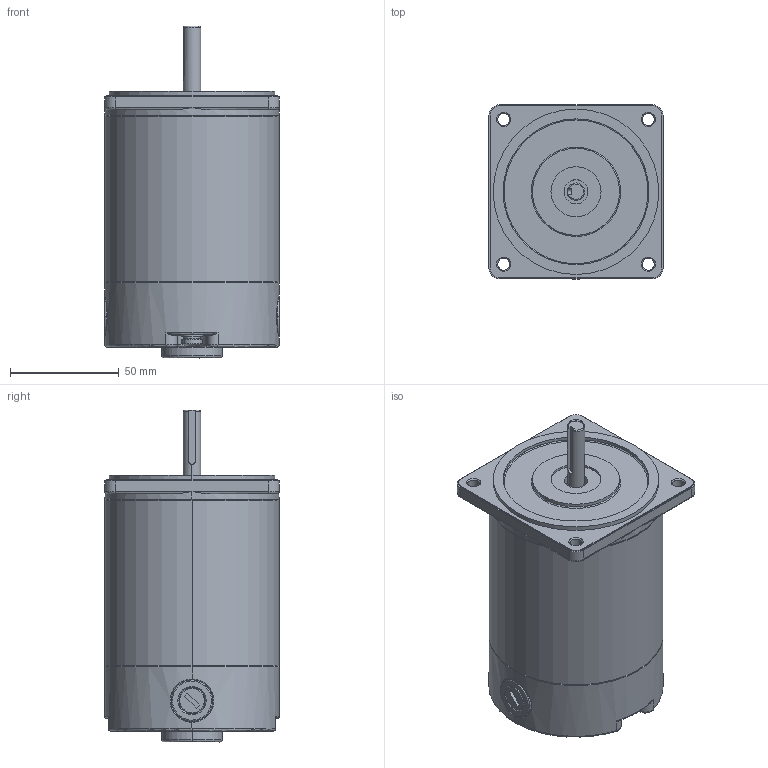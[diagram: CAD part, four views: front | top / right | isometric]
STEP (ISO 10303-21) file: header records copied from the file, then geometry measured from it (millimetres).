
FILE_DESCRIPTION (( 'STEP AP203' ), '1' );
FILE_NAME ('80嫖萇儂99儂褲.STEP', '2021-07-17T08:27:00', ( '' ), ( '' ), 'SwSTEP 2.0', 'SolidWorks 2021', '' );
FILE_SCHEMA (( 'CONFIG_CONTROL_DESIGN' ));
Length unit declared in the file: millimetre
Products named in the file (7): HOUGAI-80-1_1; JIKEI-80_1_1_1; TANDIAN_1; LUDING_1; QIANGAI-80_1_1; PENGDIAN_1; 80嫖萇儂99儂褲
Assembly tree (9 placements, depth 2):
  80嫖萇儂99儂褲
    TANDIAN_1  x2
    LUDING_1  x2
    QIANGAI-80_1_1
    HOUGAI-80-1_1
    PENGDIAN_1  x2
    JIKEI-80_1_1_1
Bounding box: 80 x 80 x 152.5 mm (x, y, z)
Volume: 170955.5 mm3; surface area: 84820.3 mm2
Topology: 14 solids, 14 shells, 402 faces, 977 edges, 612 vertices
Faces by surface type: cylinder 147, plane 111, cone 84, torus 40, bspline 20
Entity records: 14426 total; most frequent: CARTESIAN_POINT 5718, DIRECTION 1682, ORIENTED_EDGE 1638, EDGE_CURVE 819, AXIS2_PLACEMENT_3D 676, VERTEX_POINT 513, EDGE_LOOP 380, CIRCLE 343
